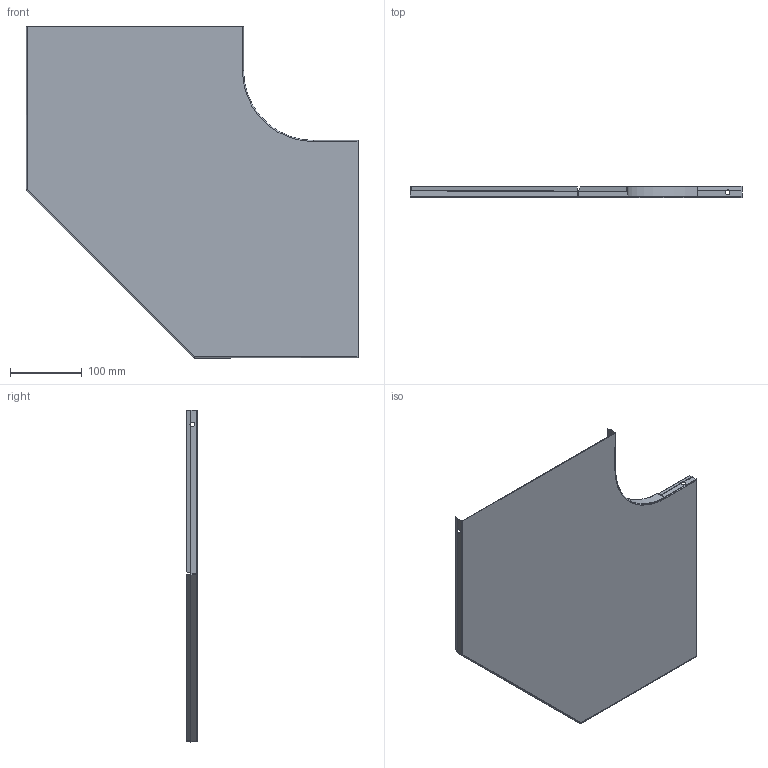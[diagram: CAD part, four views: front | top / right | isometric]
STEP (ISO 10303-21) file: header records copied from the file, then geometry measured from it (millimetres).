
FILE_DESCRIPTION (( 'STEP AP203' ), '1' );
FILE_NAME ('ERE_TAPA CP 300 GC.step', '2023-07-28T14:55:25', ( '' ), ( '' ), 'SwSTEP 2.0', 'SolidWorks 2022', '' );
FILE_SCHEMA (( 'CONFIG_CONTROL_DESIGN' ));
Length unit declared in the file: millimetre
Products named in the file (1): ERE_TAPA CP 300 GC
Bounding box: 462.5 x 15.1 x 462.5 mm (x, y, z)
Volume: 124412.4 mm3; surface area: 356809 mm2
Topology: 1 solids, 1 shells, 134 faces, 300 edges, 160 vertices
Faces by surface type: plane 76, cylinder 44, bspline 12, torus 2
Entity records: 3821 total; most frequent: CARTESIAN_POINT 897, ORIENTED_EDGE 600, DIRECTION 570, EDGE_CURVE 300, AXIS2_PLACEMENT_3D 193, LINE 184, VECTOR 184, VERTEX_POINT 160
